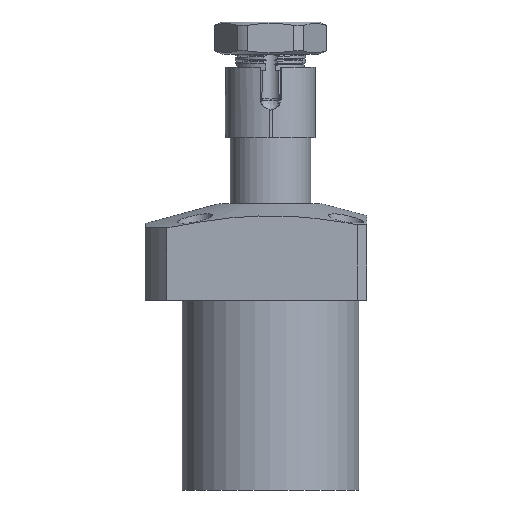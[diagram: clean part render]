
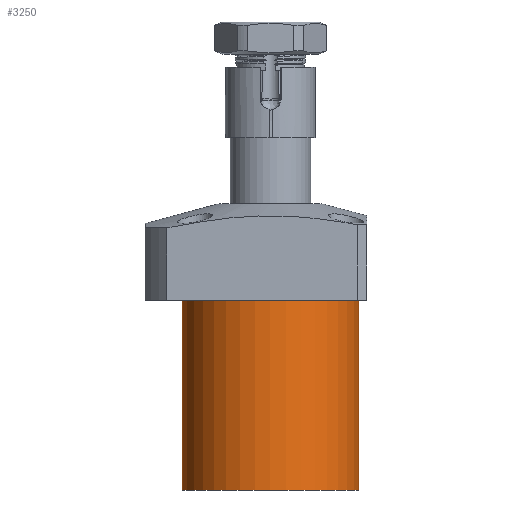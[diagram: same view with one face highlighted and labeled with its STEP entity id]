
A CAD part, front view. The second image highlights one B-rep face of the part: STEP entity #3250.
In plain terms, the highlighted cylindrical face has radius 27.5 mm (diameter 55 mm), a partial arc.
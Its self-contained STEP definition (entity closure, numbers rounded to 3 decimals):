
#45 = VERTEX_POINT('',#46);
#46 = CARTESIAN_POINT('',(27.5,0.,-59.));
#47 = VERTEX_POINT('',#48);
#48 = CARTESIAN_POINT('',(-27.5,0.,-59.));
#56 = CYLINDRICAL_SURFACE('',#57,27.5);
#57 = AXIS2_PLACEMENT_3D('',#58,#59,#60);
#58 = CARTESIAN_POINT('',(0.,0.,-59.));
#59 = DIRECTION('',(0.,0.,1.));
#60 = DIRECTION('',(1.,0.,-0.));
#68 = PLANE('',#69);
#69 = AXIS2_PLACEMENT_3D('',#70,#71,#72);
#70 = CARTESIAN_POINT('',(27.5,0.,-59.));
#71 = DIRECTION('',(0.,0.,-1.));
#72 = DIRECTION('',(-1.,0.,-0.));
#84 = EDGE_CURVE('',#47,#85,#87,.T.);
#85 = VERTEX_POINT('',#86);
#86 = CARTESIAN_POINT('',(-27.5,0.,0.));
#87 = SURFACE_CURVE('',#88,(#92,#99),.PCURVE_S1.);
#88 = LINE('',#89,#90);
#89 = CARTESIAN_POINT('',(-27.5,0.,-59.));
#90 = VECTOR('',#91,1.);
#91 = DIRECTION('',(0.,0.,1.));
#92 = PCURVE('',#56,#93);
#93 = DEFINITIONAL_REPRESENTATION('',(#94),#98);
#94 = LINE('',#95,#96);
#95 = CARTESIAN_POINT('',(3.142,0.));
#96 = VECTOR('',#97,1.);
#97 = DIRECTION('',(0.,1.));
#98 = ( GEOMETRIC_REPRESENTATION_CONTEXT(2) 
PARAMETRIC_REPRESENTATION_CONTEXT() REPRESENTATION_CONTEXT('2D SPACE',''
  ) );
#99 = PCURVE('',#100,#105);
#100 = CYLINDRICAL_SURFACE('',#101,27.5);
#101 = AXIS2_PLACEMENT_3D('',#102,#103,#104);
#102 = CARTESIAN_POINT('',(0.,0.,-59.));
#103 = DIRECTION('',(0.,0.,1.));
#104 = DIRECTION('',(1.,0.,-0.));
#105 = DEFINITIONAL_REPRESENTATION('',(#106),#110);
#106 = LINE('',#107,#108);
#107 = CARTESIAN_POINT('',(3.142,0.));
#108 = VECTOR('',#109,1.);
#109 = DIRECTION('',(0.,1.));
#110 = ( GEOMETRIC_REPRESENTATION_CONTEXT(2) 
PARAMETRIC_REPRESENTATION_CONTEXT() REPRESENTATION_CONTEXT('2D SPACE',''
  ) );
#113 = VERTEX_POINT('',#114);
#114 = CARTESIAN_POINT('',(27.5,0.,0.));
#129 = PLANE('',#130);
#130 = AXIS2_PLACEMENT_3D('',#131,#132,#133);
#131 = CARTESIAN_POINT('',(0.,0.,0.));
#132 = DIRECTION('',(0.,-0.,1.));
#133 = DIRECTION('',(1.,0.,0.));
#145 = EDGE_CURVE('',#45,#113,#146,.T.);
#146 = SURFACE_CURVE('',#147,(#151,#158),.PCURVE_S1.);
#147 = LINE('',#148,#149);
#148 = CARTESIAN_POINT('',(27.5,0.,-59.));
#149 = VECTOR('',#150,1.);
#150 = DIRECTION('',(0.,0.,1.));
#151 = PCURVE('',#56,#152);
#152 = DEFINITIONAL_REPRESENTATION('',(#153),#157);
#153 = LINE('',#154,#155);
#154 = CARTESIAN_POINT('',(0.,0.));
#155 = VECTOR('',#156,1.);
#156 = DIRECTION('',(0.,1.));
#157 = ( GEOMETRIC_REPRESENTATION_CONTEXT(2) 
PARAMETRIC_REPRESENTATION_CONTEXT() REPRESENTATION_CONTEXT('2D SPACE',''
  ) );
#158 = PCURVE('',#100,#159);
#159 = DEFINITIONAL_REPRESENTATION('',(#160),#164);
#160 = LINE('',#161,#162);
#161 = CARTESIAN_POINT('',(6.283,0.));
#162 = VECTOR('',#163,1.);
#163 = DIRECTION('',(0.,1.));
#164 = ( GEOMETRIC_REPRESENTATION_CONTEXT(2) 
PARAMETRIC_REPRESENTATION_CONTEXT() REPRESENTATION_CONTEXT('2D SPACE',''
  ) );
#3250 = ADVANCED_FACE('',(#3251),#100,.T.);
#3251 = FACE_BOUND('',#3252,.T.);
#3252 = EDGE_LOOP('',(#3253,#3254,#3280,#3281));
#3253 = ORIENTED_EDGE('',*,*,#84,.F.);
#3254 = ORIENTED_EDGE('',*,*,#3255,.T.);
#3255 = EDGE_CURVE('',#47,#45,#3256,.T.);
#3256 = SURFACE_CURVE('',#3257,(#3262,#3269),.PCURVE_S1.);
#3257 = CIRCLE('',#3258,27.5);
#3258 = AXIS2_PLACEMENT_3D('',#3259,#3260,#3261);
#3259 = CARTESIAN_POINT('',(0.,0.,-59.));
#3260 = DIRECTION('',(0.,0.,1.));
#3261 = DIRECTION('',(1.,0.,-0.));
#3262 = PCURVE('',#100,#3263);
#3263 = DEFINITIONAL_REPRESENTATION('',(#3264),#3268);
#3264 = LINE('',#3265,#3266);
#3265 = CARTESIAN_POINT('',(0.,0.));
#3266 = VECTOR('',#3267,1.);
#3267 = DIRECTION('',(1.,0.));
#3268 = ( GEOMETRIC_REPRESENTATION_CONTEXT(2) 
PARAMETRIC_REPRESENTATION_CONTEXT() REPRESENTATION_CONTEXT('2D SPACE',''
  ) );
#3269 = PCURVE('',#68,#3270);
#3270 = DEFINITIONAL_REPRESENTATION('',(#3271),#3279);
#3271 = ( BOUNDED_CURVE() B_SPLINE_CURVE(2,(#3272,#3273,#3274,#3275,
#3276,#3277,#3278),.UNSPECIFIED.,.T.,.F.) B_SPLINE_CURVE_WITH_KNOTS((1,2
    ,2,2,2,1),(-2.094,0.,2.094,4.189,
6.283,8.378),.UNSPECIFIED.) CURVE() 
GEOMETRIC_REPRESENTATION_ITEM() RATIONAL_B_SPLINE_CURVE((1.,0.5,1.,0.5,
1.,0.5,1.)) REPRESENTATION_ITEM('') );
#3272 = CARTESIAN_POINT('',(0.,0.));
#3273 = CARTESIAN_POINT('',(0.,47.631));
#3274 = CARTESIAN_POINT('',(41.25,23.816));
#3275 = CARTESIAN_POINT('',(82.5,0.));
#3276 = CARTESIAN_POINT('',(41.25,-23.816));
#3277 = CARTESIAN_POINT('',(0.,-47.631));
#3278 = CARTESIAN_POINT('',(0.,0.));
#3279 = ( GEOMETRIC_REPRESENTATION_CONTEXT(2) 
PARAMETRIC_REPRESENTATION_CONTEXT() REPRESENTATION_CONTEXT('2D SPACE',''
  ) );
#3280 = ORIENTED_EDGE('',*,*,#145,.T.);
#3281 = ORIENTED_EDGE('',*,*,#3282,.T.);
#3282 = EDGE_CURVE('',#113,#85,#3283,.T.);
#3283 = SURFACE_CURVE('',#3284,(#3289,#3296),.PCURVE_S1.);
#3284 = CIRCLE('',#3285,27.5);
#3285 = AXIS2_PLACEMENT_3D('',#3286,#3287,#3288);
#3286 = CARTESIAN_POINT('',(0.,0.,0.));
#3287 = DIRECTION('',(0.,0.,-1.));
#3288 = DIRECTION('',(1.,0.,0.));
#3289 = PCURVE('',#100,#3290);
#3290 = DEFINITIONAL_REPRESENTATION('',(#3291),#3295);
#3291 = LINE('',#3292,#3293);
#3292 = CARTESIAN_POINT('',(6.283,59.));
#3293 = VECTOR('',#3294,1.);
#3294 = DIRECTION('',(-1.,0.));
#3295 = ( GEOMETRIC_REPRESENTATION_CONTEXT(2) 
PARAMETRIC_REPRESENTATION_CONTEXT() REPRESENTATION_CONTEXT('2D SPACE',''
  ) );
#3296 = PCURVE('',#129,#3297);
#3297 = DEFINITIONAL_REPRESENTATION('',(#3298),#3306);
#3298 = ( BOUNDED_CURVE() B_SPLINE_CURVE(2,(#3299,#3300,#3301,#3302,
#3303,#3304,#3305),.UNSPECIFIED.,.T.,.F.) B_SPLINE_CURVE_WITH_KNOTS((1,2
    ,2,2,2,1),(-2.094,0.,2.094,4.189,
6.283,8.378),.UNSPECIFIED.) CURVE() 
GEOMETRIC_REPRESENTATION_ITEM() RATIONAL_B_SPLINE_CURVE((1.,0.5,1.,0.5,
1.,0.5,1.)) REPRESENTATION_ITEM('') );
#3299 = CARTESIAN_POINT('',(27.5,0.));
#3300 = CARTESIAN_POINT('',(27.5,-47.631));
#3301 = CARTESIAN_POINT('',(-13.75,-23.816));
#3302 = CARTESIAN_POINT('',(-55.,0.));
#3303 = CARTESIAN_POINT('',(-13.75,23.816));
#3304 = CARTESIAN_POINT('',(27.5,47.631));
#3305 = CARTESIAN_POINT('',(27.5,0.));
#3306 = ( GEOMETRIC_REPRESENTATION_CONTEXT(2) 
PARAMETRIC_REPRESENTATION_CONTEXT() REPRESENTATION_CONTEXT('2D SPACE',''
  ) );
